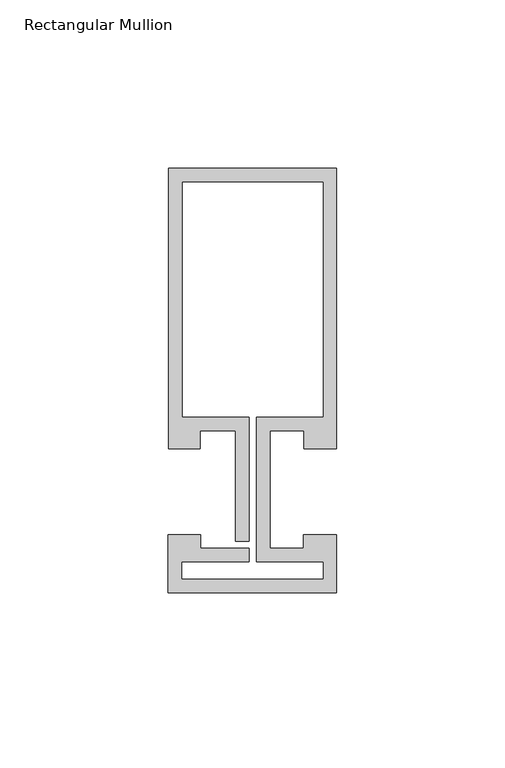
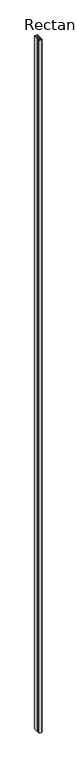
"""IFC4 building model written with IfcOpenShell, lengths in millimetres: member geometry, Rectangular Mullion : Reynaers_CW-50_Transom-Transom_83.5mm_Facecap-02B."""

from ifc_helpers import new_model, si_unit, frame, origin, place, context, project, spatial, polyline, outline, extrude, source, transform, mapped, element, save


def rectangular_mullion_f144b1d0(model_context):
    return source(origin(), model_context, "Body", "SweptSolid", [
        extrude(outline(polyline([(25.1995941, -12.7331291), (25.1995941, -30.0331291), (-24.994845, -30.0331291), (-24.994845, -12.7331291), (-15.2996495, -12.7331291), (-15.2996495, -16.7331291), (-0.9004059, -16.7331291), (-0.9004059, -20.7331291), (-20.994845, -20.7331291), (-20.994845, -26.0331291), (21.1995941, -26.0331291), (21.1995941, -20.7331291), (1.2995941, -20.7331291), (1.2995941, 22.1331291), (21.1995941, 22.1331291), (21.1995941, 92.2331291), (-20.8004059, 92.2331291), (-20.8004059, 22.1331291), (-0.9004059, 22.1331291), (-0.9004059, -14.7331291), (-4.9004059, -14.7331291), (-4.9004059, 18.1331291), (-15.499, 18.1331291), (-15.499, 12.7331291), (-24.8004059, 12.7331291), (-24.8004059, 96.2331291), (25.1995941, 96.2331291), (25.1995941, 12.7331291), (15.499, 12.7331291), (15.499, 18.1331291), (5.2995941, 18.1331291), (5.2995941, -16.7331291), (15.2996495, -16.7331291), (15.2996495, -12.7331291), (25.1995941, -12.7331291)])), frame((0.0, 0.0, -12000.0), z_axis=(0.0, 0.0, 1.0), x_axis=(1.0, 0.0, 0.0)), (0.0, 0.0, 1.0), 12000.0),
    ])


if __name__ == "__main__":
    model = new_model("IFC4")
    model_context = context("Model", 3, world=origin())
    ifc_project = project(units=[si_unit("LENGTHUNIT", "METRE", prefix="MILLI")], contexts=[model_context])
    site = spatial("IfcSite", under=ifc_project)
    building = spatial("IfcBuilding", under=site)
    placement = place(None, origin())
    rectangular_mullion_shape = rectangular_mullion_f144b1d0(model_context)
    element("IfcMember", 1, ObjectType="Rectangular Mullion : Reynaers_CW-50_Transom-Transom_83.5mm_Facecap-02B", at=placement, inside=building, context=model_context, shape_type="MappedRepresentation", body=[
        mapped(rectangular_mullion_shape, transform((0.0, 0.0, 0.0), x_axis=(1.0, 0.0, 0.0), y_axis=(0.0, 1.0, 0.0), z_axis=(0.0, 0.0, 1.0))),
    ])
    save(model, "model.ifc")
